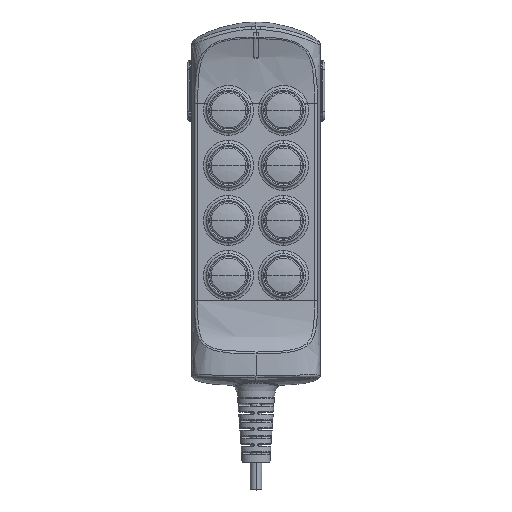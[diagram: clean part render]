
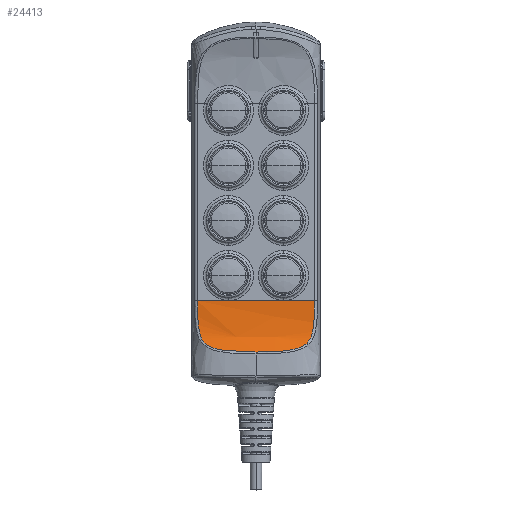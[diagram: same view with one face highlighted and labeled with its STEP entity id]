
A CAD part, top view. The second image highlights one B-rep face of the part: STEP entity #24413.
In plain terms, the highlighted free-form (B-spline) face has degree [3, 3] with [6, 4] control points.
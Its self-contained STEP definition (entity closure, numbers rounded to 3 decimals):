
#31 = B_SPLINE_CURVE_WITH_KNOTS ( 'NONE', 3,
 ( #20543, #20528, #20510, #20512, #20529, #20514, #20548, #20532, #20552, #20516, #20517, #20533, #20535, #20536, #20537, #20538, #20540, #20544, #20545, #20594 ),
 .UNSPECIFIED., .F., .F.,
 ( 4, 1, 1, 1, 1, 1, 1, 1, 1, 1, 1, 1, 1, 1, 1, 1, 1, 4 ),
 ( 0., 0.125, 0.25, 0.313, 0.375, 0.438, 0.469, 0.5, 0.531, 0.563, 0.594, 0.625, 0.688, 0.75, 0.813, 0.875, 0.938, 1. ),
 .UNSPECIFIED. ) ;
#4783 = FACE_OUTER_BOUND ( 'NONE', #41471, .T. ) ;
#8622 = ORIENTED_EDGE ( 'NONE', *, *, #28375, .F. ) ;
#8648 = ORIENTED_EDGE ( 'NONE', *, *, #28308, .F. ) ;
#8725 = ORIENTED_EDGE ( 'NONE', *, *, #28377, .T. ) ;
#12833 = CARTESIAN_POINT ( 'NONE',  ( -25.849, -55.75, 8.605 ) ) ;
#12840 = CARTESIAN_POINT ( 'NONE',  ( -25.849, -34.945, 5. ) ) ;
#12841 = CARTESIAN_POINT ( 'NONE',  ( 8.616, -49.067, 5.006 ) ) ;
#12843 = CARTESIAN_POINT ( 'NONE',  ( 8.616, -34.918, 5. ) ) ;
#12844 = CARTESIAN_POINT ( 'NONE',  ( -25.849, -38.008, 5. ) ) ;
#12845 = CARTESIAN_POINT ( 'NONE',  ( -25.849, -49.067, 5.006 ) ) ;
#12846 = CARTESIAN_POINT ( 'NONE',  ( 25.849, -55.75, 8.605 ) ) ;
#12851 = CARTESIAN_POINT ( 'NONE',  ( 25.849, -34.918, 5. ) ) ;
#12854 = CARTESIAN_POINT ( 'NONE',  ( 8.616, -34.945, 5. ) ) ;
#12869 = CARTESIAN_POINT ( 'NONE',  ( -25.849, -34.918, 5. ) ) ;
#12870 = CARTESIAN_POINT ( 'NONE',  ( -8.616, -34.918, 5. ) ) ;
#12871 = CARTESIAN_POINT ( 'NONE',  ( -25.849, -57.461, 9.798 ) ) ;
#12872 = CARTESIAN_POINT ( 'NONE',  ( -8.616, -34.945, 5. ) ) ;
#12873 = CARTESIAN_POINT ( 'NONE',  ( 8.616, -55.75, 8.605 ) ) ;
#12875 = CARTESIAN_POINT ( 'NONE',  ( -8.616, -38.008, 5. ) ) ;
#12876 = CARTESIAN_POINT ( 'NONE',  ( 8.616, -38.008, 5. ) ) ;
#12877 = CARTESIAN_POINT ( 'NONE',  ( -8.616, -57.461, 9.798 ) ) ;
#12878 = CARTESIAN_POINT ( 'NONE',  ( 25.849, -34.945, 5. ) ) ;
#12883 = CARTESIAN_POINT ( 'NONE',  ( 25.849, -38.008, 5. ) ) ;
#12884 = CARTESIAN_POINT ( 'NONE',  ( -8.616, -49.067, 5.006 ) ) ;
#12885 = CARTESIAN_POINT ( 'NONE',  ( -8.616, -55.75, 8.605 ) ) ;
#12886 = CARTESIAN_POINT ( 'NONE',  ( 8.616, -57.461, 9.798 ) ) ;
#12887 = CARTESIAN_POINT ( 'NONE',  ( 25.849, -57.461, 9.798 ) ) ;
#12888 = CARTESIAN_POINT ( 'NONE',  ( 25.849, -49.067, 5.006 ) ) ;
#14917 = VERTEX_POINT ( 'NONE', #23141 ) ;
#14940 = VERTEX_POINT ( 'NONE', #23122 ) ;
#15017 = VERTEX_POINT ( 'NONE', #23202 ) ;
#20510 = CARTESIAN_POINT ( 'NONE',  ( -5.395, -57.338, 9.713 ) ) ;
#20512 = CARTESIAN_POINT ( 'NONE',  ( -9.875, -57.147, 9.582 ) ) ;
#20514 = CARTESIAN_POINT ( 'NONE',  ( -16.097, -56.365, 9.077 ) ) ;
#20516 = CARTESIAN_POINT ( 'NONE',  ( -22.044, -53.739, 7.684 ) ) ;
#20517 = CARTESIAN_POINT ( 'NONE',  ( -22.919, -52.812, 7.289 ) ) ;
#20528 = CARTESIAN_POINT ( 'NONE',  ( -1.8, -57.369, 9.735 ) ) ;
#20529 = CARTESIAN_POINT ( 'NONE',  ( -13.433, -56.793, 9.349 ) ) ;
#20532 = CARTESIAN_POINT ( 'NONE',  ( -19.881, -55.133, 8.372 ) ) ;
#20533 = CARTESIAN_POINT ( 'NONE',  ( -23.6, -51.781, 6.905 ) ) ;
#20535 = CARTESIAN_POINT ( 'NONE',  ( -24.295, -50.264, 6.424 ) ) ;
#20536 = CARTESIAN_POINT ( 'NONE',  ( -24.811, -48.218, 5.944 ) ) ;
#20537 = CARTESIAN_POINT ( 'NONE',  ( -25.168, -45.628, 5.532 ) ) ;
#20538 = CARTESIAN_POINT ( 'NONE',  ( -25.371, -43.007, 5.258 ) ) ;
#20540 = CARTESIAN_POINT ( 'NONE',  ( -25.485, -40.359, 5.09 ) ) ;
#20543 = CARTESIAN_POINT ( 'NONE',  ( 0., -57.369, 9.735 ) ) ;
#20544 = CARTESIAN_POINT ( 'NONE',  ( -25.538, -37.691, 5.007 ) ) ;
#20545 = CARTESIAN_POINT ( 'NONE',  ( -25.542, -35.906, 5. ) ) ;
#20548 = CARTESIAN_POINT ( 'NONE',  ( -18.258, -55.793, 8.735 ) ) ;
#20552 = CARTESIAN_POINT ( 'NONE',  ( -21.032, -54.501, 8.046 ) ) ;
#20589 = CARTESIAN_POINT ( 'NONE',  ( -25.851, -35., 5. ) ) ;
#20594 = CARTESIAN_POINT ( 'NONE',  ( -25.542, -35., 5. ) ) ;
#20621 = DIRECTION ( 'NONE',  ( -1., 0., 0. ) ) ;
#22732 = B_SPLINE_SURFACE_WITH_KNOTS ( 'NONE', 3, 3, ( 
 ( #12869, #12870, #12843, #12851 ),
 ( #12840, #12872, #12854, #12878 ),
 ( #12844, #12875, #12876, #12883 ),
 ( #12845, #12884, #12841, #12888 ),
 ( #12833, #12885, #12873, #12846 ),
 ( #12871, #12877, #12886, #12887 ) ),
 .UNSPECIFIED., .F., .F., .F.,
 ( 4, 1, 1, 4 ),
 ( 4, 4 ),
 ( 0.011, 0.017, 0.664, 0.994 ),
 ( 0., 1. ),
 .UNSPECIFIED. ) ;
#23122 = CARTESIAN_POINT ( 'NONE',  ( 0., -57.369, 9.735 ) ) ;
#23141 = CARTESIAN_POINT ( 'NONE',  ( 25.542, -35., 5. ) ) ;
#23202 = CARTESIAN_POINT ( 'NONE',  ( -25.542, -35., 5. ) ) ;
#24413 = ADVANCED_FACE ( 'NONE', ( #4783 ), #22732, .T. ) ;
#28308 = EDGE_CURVE ( 'NONE', #14917, #14940, #49046, .T. ) ;
#28375 = EDGE_CURVE ( 'NONE', #14940, #15017, #31, .T. ) ;
#28377 = EDGE_CURVE ( 'NONE', #14917, #15017, #42164, .T. ) ;
#39558 = CARTESIAN_POINT ( 'NONE',  ( 18.258, -55.793, 8.735 ) ) ;
#39559 = CARTESIAN_POINT ( 'NONE',  ( 0., -57.369, 9.735 ) ) ;
#39560 = CARTESIAN_POINT ( 'NONE',  ( 24.811, -48.218, 5.944 ) ) ;
#39563 = CARTESIAN_POINT ( 'NONE',  ( 24.295, -50.264, 6.424 ) ) ;
#39566 = CARTESIAN_POINT ( 'NONE',  ( 25.538, -37.691, 5.007 ) ) ;
#39580 = CARTESIAN_POINT ( 'NONE',  ( 25.542, -35., 5. ) ) ;
#39582 = CARTESIAN_POINT ( 'NONE',  ( 25.485, -40.359, 5.09 ) ) ;
#39585 = CARTESIAN_POINT ( 'NONE',  ( 25.168, -45.628, 5.532 ) ) ;
#39587 = CARTESIAN_POINT ( 'NONE',  ( 23.6, -51.781, 6.905 ) ) ;
#39588 = CARTESIAN_POINT ( 'NONE',  ( 22.919, -52.812, 7.289 ) ) ;
#39592 = CARTESIAN_POINT ( 'NONE',  ( 25.371, -43.007, 5.258 ) ) ;
#39594 = CARTESIAN_POINT ( 'NONE',  ( 21.032, -54.501, 8.046 ) ) ;
#39597 = CARTESIAN_POINT ( 'NONE',  ( 19.881, -55.133, 8.372 ) ) ;
#39598 = CARTESIAN_POINT ( 'NONE',  ( 16.097, -56.365, 9.077 ) ) ;
#39599 = CARTESIAN_POINT ( 'NONE',  ( 13.433, -56.793, 9.349 ) ) ;
#39600 = CARTESIAN_POINT ( 'NONE',  ( 9.875, -57.147, 9.582 ) ) ;
#39602 = CARTESIAN_POINT ( 'NONE',  ( 22.044, -53.739, 7.684 ) ) ;
#39603 = CARTESIAN_POINT ( 'NONE',  ( 5.395, -57.338, 9.713 ) ) ;
#39610 = CARTESIAN_POINT ( 'NONE',  ( 25.542, -35.906, 5. ) ) ;
#39611 = CARTESIAN_POINT ( 'NONE',  ( 1.8, -57.369, 9.735 ) ) ;
#41471 = EDGE_LOOP ( 'NONE', ( #8725, #8622, #8648 ) ) ;
#42152 = VECTOR ( 'NONE', #20621, 1000. ) ;
#42164 = LINE ( 'NONE', #20589, #42152 ) ;
#49046 = B_SPLINE_CURVE_WITH_KNOTS ( 'NONE', 3,
 ( #39580, #39610, #39566, #39582, #39592, #39585, #39560, #39563, #39587, #39588, #39602, #39594, #39597, #39558, #39598, #39599, #39600, #39603, #39611, #39559 ),
 .UNSPECIFIED., .F., .F.,
 ( 4, 1, 1, 1, 1, 1, 1, 1, 1, 1, 1, 1, 1, 1, 1, 1, 1, 4 ),
 ( 0., 0.062, 0.125, 0.187, 0.25, 0.312, 0.375, 0.406, 0.437, 0.469, 0.5, 0.531, 0.562, 0.625, 0.687, 0.75, 0.875, 1. ),
 .UNSPECIFIED. ) ;
